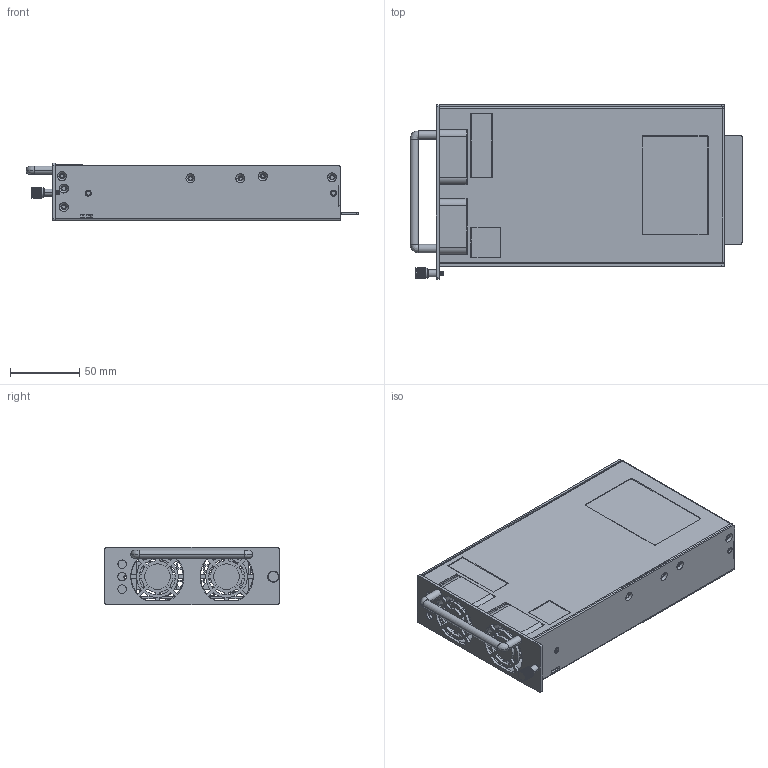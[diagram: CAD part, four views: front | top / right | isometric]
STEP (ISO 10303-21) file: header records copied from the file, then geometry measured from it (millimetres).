
FILE_DESCRIPTION((''),'2;1');
FILE_NAME('EPA30','2022-08-18T15:11:19',('pd071'),(''),'CREO PARAMETRIC BY PTC INC, 2017260','CREO PARAMETRIC BY PTC INC, 2017260','');
FILE_SCHEMA(('CONFIG_CONTROL_DESIGN','SHAPE_APPEARANCE_LAYERS_GROUPS'));
Products named in the file (1): EPA30
Bounding box: 239.7 x 126 x 41.6 mm (x, y, z)
Surface area: 354227.7 mm2 (no closed solid volume)
Topology: 0 solids, 50 shells, 2305 faces, 7185 edges, 4803 vertices
Faces by surface type: plane 1722, cylinder 497, cone 62, bspline 22, torus 2
Entity records: 96842 total; most frequent: CARTESIAN_POINT 19929, ORIENTED_EDGE 13269, DIRECTION 12625, EDGE_CURVE 7181, VECTOR 5645, LINE 5645, VERTEX_POINT 4803, AXIS2_PLACEMENT_3D 3490
